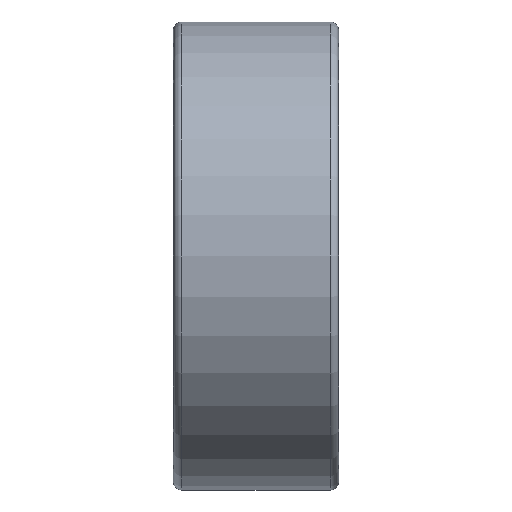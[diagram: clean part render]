
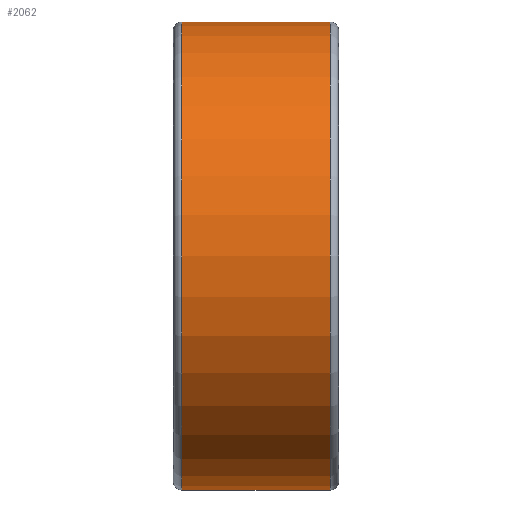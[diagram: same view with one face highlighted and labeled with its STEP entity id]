
A CAD part, front view. The second image highlights one B-rep face of the part: STEP entity #2062.
In plain terms, the highlighted cylindrical face has radius 8.5 mm (diameter 17 mm), a partial arc.
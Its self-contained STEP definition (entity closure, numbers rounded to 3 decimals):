
#1101=CARTESIAN_POINT('',(2.7,0.,0.));
#1102=DIRECTION('',(-1.,0.,0.));
#1103=DIRECTION('',(0.,0.,-1.));
#1104=AXIS2_PLACEMENT_3D('',#1101,#1102,#1103);
#1106=DIRECTION('',(-1.,0.,0.));
#1107=VECTOR('',#1106,5.4);
#1108=CARTESIAN_POINT('',(2.7,0.,-8.5));
#1109=LINE('',#1108,#1107);
#1110=DIRECTION('',(-1.,0.,0.));
#1111=VECTOR('',#1110,5.4);
#1112=CARTESIAN_POINT('',(2.7,0.,8.5));
#1113=LINE('',#1112,#1111);
#1129=CARTESIAN_POINT('',(-2.7,0.,0.));
#1130=DIRECTION('',(1.,0.,0.));
#1131=DIRECTION('',(0.,0.,1.));
#1132=AXIS2_PLACEMENT_3D('',#1129,#1130,#1131);
#1562=CARTESIAN_POINT('',(2.7,0.,8.5));
#1563=VERTEX_POINT('',#1562);
#1564=CARTESIAN_POINT('',(2.7,0.,-8.5));
#1565=VERTEX_POINT('',#1564);
#1566=CARTESIAN_POINT('',(-2.7,0.,-8.5));
#1567=VERTEX_POINT('',#1566);
#1568=CARTESIAN_POINT('',(-2.7,0.,8.5));
#1569=VERTEX_POINT('',#1568);
#2048=CARTESIAN_POINT('',(0.,0.,0.));
#2049=DIRECTION('',(-1.,0.,0.));
#2050=DIRECTION('',(0.,0.,1.));
#2051=AXIS2_PLACEMENT_3D('',#2048,#2049,#2050);
#2052=CYLINDRICAL_SURFACE('',#2051,8.5);
#2054=ORIENTED_EDGE('',*,*,#2053,.T.);
#2056=ORIENTED_EDGE('',*,*,#2055,.F.);
#2058=ORIENTED_EDGE('',*,*,#2057,.F.);
#2059=ORIENTED_EDGE('',*,*,#2041,.F.);
#2060=EDGE_LOOP('',(#2054,#2056,#2058,#2059));
#2061=FACE_OUTER_BOUND('',#2060,.F.);
#2062=ADVANCED_FACE('',(#2061),#2052,.T.);
#1105=CIRCLE('',#1104,8.5);
#1133=CIRCLE('',#1132,8.5);
#2041=EDGE_CURVE('',#1565,#1563,#1105,.T.);
#2053=EDGE_CURVE('',#1565,#1567,#1109,.T.);
#2055=EDGE_CURVE('',#1569,#1567,#1133,.T.);
#2057=EDGE_CURVE('',#1563,#1569,#1113,.T.);
